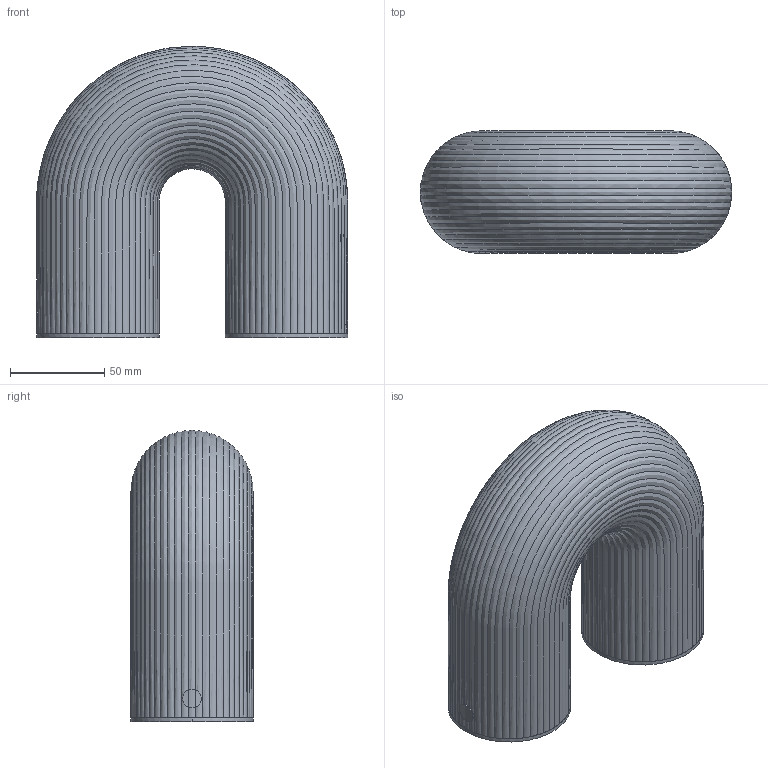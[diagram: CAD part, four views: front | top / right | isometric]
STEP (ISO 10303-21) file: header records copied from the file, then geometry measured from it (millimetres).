
FILE_DESCRIPTION(/* description */ (''),/* implementation_level */ '2;1');
FILE_NAME(/* name */ 'Vuelta Portable Lamp_3D',/* time_stamp */ '2024-09-03T15:45:50+02:00',/* author */ (''),/* organization */ (''),/* preprocessor_version */ 'ST-DEVELOPER v16.5',/* originating_system */ 'Rhino 7.37',/* authorisation */ '');
FILE_SCHEMA (('CONFIG_CONTROL_DESIGN'));
Length unit declared in the file: millimetre
Products named in the file (1): Document
Bounding box: 165.19 x 65 x 154.6 mm (x, y, z)
Volume: 268066.4 mm3; surface area: 157018 mm2
Topology: 18 solids, 18 shells, 413 faces, 1033 edges, 670 vertices
Faces by surface type: plane 248, bspline 101, cylinder 64
Entity records: 35499 total; most frequent: CARTESIAN_POINT 28717, ORIENTED_EDGE 2066, EDGE_CURVE 1033, VERTEX_POINT 670, B_SPLINE_CURVE_WITH_KNOTS 634, EDGE_LOOP 451, ADVANCED_FACE 413, FACE_OUTER_BOUND 413
